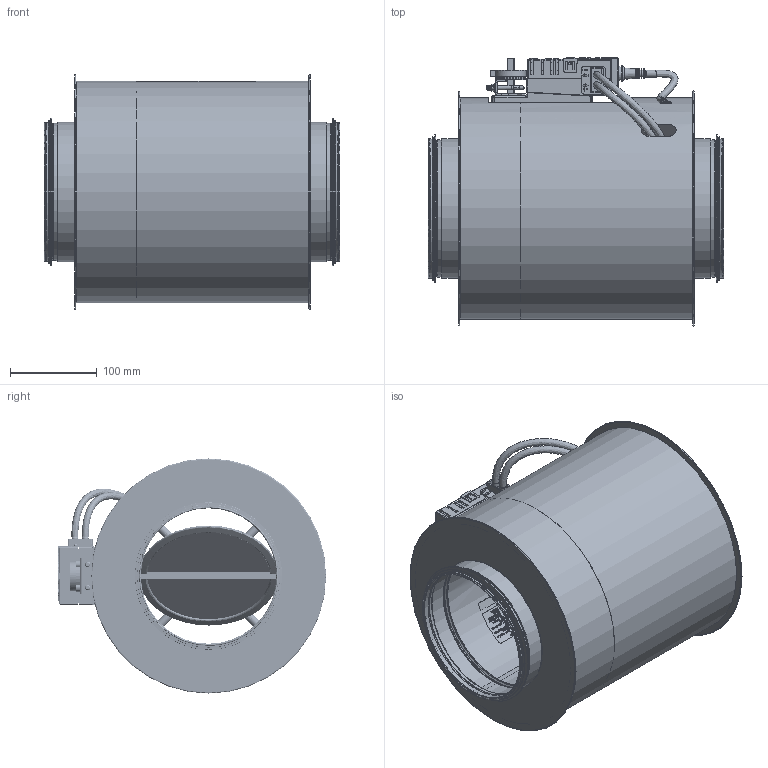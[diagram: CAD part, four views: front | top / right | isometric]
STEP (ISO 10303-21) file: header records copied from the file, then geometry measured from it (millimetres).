
FILE_DESCRIPTION (( 'STEP AP214' ), '1' );
FILE_NAME ('VAV-RI160.STEP', '2025-03-06T09:31:05', ( '' ), ( '' ), 'SwSTEP 2.0', 'SolidWorks 2025', '' );
FILE_SCHEMA (( 'AUTOMOTIVE_DESIGN' ));
Length unit declared in the file: millimetre
Products named in the file (20): KLAPPE160; Teil4^VAV-RI160; CROSS_DN160; VAV-RI160; BELIMO_MOTOR BRACKET_DN150-200; LDE_DN160; Dichtungen; Dichtung_Vierkantxxx_x_x; DB_DN160; Abschlusskappexxx_x_x; CROSS_PIECE; Sicherungsscheibexxx_x_x; VSRV_Zapfen; CROSS_WING160; Dichtung_innenxxx_x_x; BLECHSCHRAUBE; Isogehäuse_DN160; LMV-D3-MP; CROSS_PLUG; Label VAVR160
Assembly tree (28 placements, depth 3):
  VAV-RI160
    DB_DN160
    BELIMO_MOTOR BRACKET_DN150-200
    CROSS_DN160
      CROSS_PIECE
      CROSS_WING160  x4
      CROSS_PLUG  x3
      VSRV_Zapfen
    LDE_DN160  x2
    BLECHSCHRAUBE  x3
    LMV-D3-MP
    Dichtungen  x2
      Abschlusskappexxx_x_x
      Dichtung_innenxxx_x_x
      Dichtung_Vierkantxxx_x_x
      Sicherungsscheibexxx_x_x
    KLAPPE160
    Label VAVR160
    Isogehäuse_DN160
    Teil4^VAV-RI160
Bounding box: 340.34 x 308.58 x 270.5 mm (x, y, z)
Volume: 388876.5 mm3; surface area: 1220115.8 mm2
Topology: 31 solids, 49 shells, 6688 faces, 18038 edges, 11836 vertices
Faces by surface type: plane 2941, bspline 2466, cylinder 1023, torus 137, cone 91, sphere 30
Full cylindrical faces by diameter (mm): 1 x4, 1.911 x6, 2 x17, 2.5 x6, 3.5 x3, 4 x2, 5 x2, 5.5 x3, 6 x27, 7.5 x2, 8 x21, 11 x1, 16 x2, 20 x2, 21 x2, 21.422 x2, 23.5 x2, 25 x2, 155.845 x2, 156.74 x2, 157.4 x2, 159.14 x4, 160 x4, 161 x1, 169.74 x2, 253 x1, 254 x2, 255 x1
Entity records: 353972 total; most frequent: CARTESIAN_POINT 159593, ORIENTED_EDGE 33927, EDGE_CURVE 16985, DIRECTION 15651, VERTEX_POINT 11275, B_SPLINE_CURVE_WITH_KNOTS 11095, EDGE_LOOP 7111, FACE_OUTER_BOUND 6494
